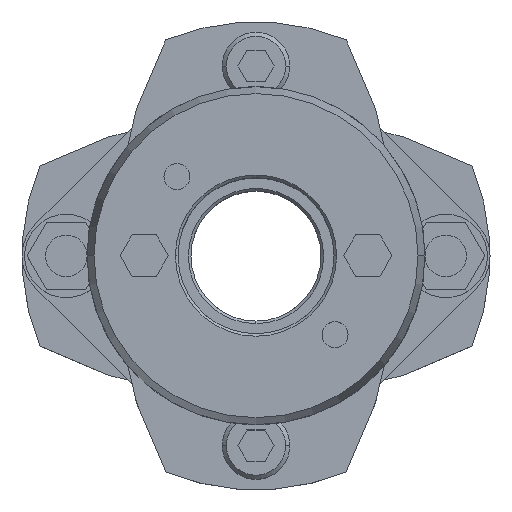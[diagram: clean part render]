
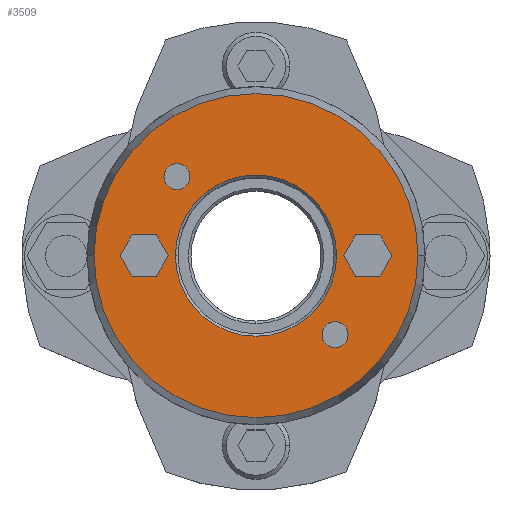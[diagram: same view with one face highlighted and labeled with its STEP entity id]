
A CAD part, top view. The second image highlights one B-rep face of the part: STEP entity #3509.
In plain terms, the highlighted planar face has unit normal (0, 0, 1).
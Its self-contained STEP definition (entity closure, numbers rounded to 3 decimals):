
#1471=CARTESIAN_POINT('',(-15.5,0.,39.25));
#1472=VERTEX_POINT('',#1471);
#1488=CARTESIAN_POINT('',(15.5,0.,39.25));
#1489=VERTEX_POINT('',#1488);
#1496=CARTESIAN_POINT('',(0.,0.,39.25));
#1497=DIRECTION('',(0.0,0.0,1.0));
#1498=DIRECTION('',(-1.0,0.0,0.0));
#1499=AXIS2_PLACEMENT_3D('',#1496,#1497,#1498);
#1500=CIRCLE('',#1499,15.5);
#1501=EDGE_CURVE('',#1489,#1472,#1500,.T.);
#1617=CARTESIAN_POINT('',(31.16,0.,39.25));
#1618=VERTEX_POINT('',#1617);
#1627=CARTESIAN_POINT('',(-31.16,0.,39.25));
#1628=VERTEX_POINT('',#1627);
#1629=CARTESIAN_POINT('',(0.,0.,39.25));
#1630=DIRECTION('',(0.0,0.0,-1.0));
#1631=DIRECTION('',(1.0,0.0,0.0));
#1632=AXIS2_PLACEMENT_3D('',#1629,#1630,#1631);
#1633=CIRCLE('',#1632,31.16);
#1634=EDGE_CURVE('',#1618,#1628,#1633,.T.);
#1951=CARTESIAN_POINT('',(-17.703,15.203,39.25));
#1952=VERTEX_POINT('',#1951);
#1968=CARTESIAN_POINT('',(-12.703,15.203,39.25));
#1969=VERTEX_POINT('',#1968);
#1976=CARTESIAN_POINT('',(-15.203,15.203,39.25));
#1977=DIRECTION('',(0.0,0.0,-1.0));
#1978=DIRECTION('',(-1.0,0.0,0.0));
#1979=AXIS2_PLACEMENT_3D('',#1976,#1977,#1978);
#1980=CIRCLE('',#1979,2.5);
#1981=EDGE_CURVE('',#1952,#1969,#1980,.T.);
#1993=CARTESIAN_POINT('',(12.703,-15.203,39.25));
#1994=VERTEX_POINT('',#1993);
#2010=CARTESIAN_POINT('',(17.703,-15.203,39.25));
#2011=VERTEX_POINT('',#2010);
#2018=CARTESIAN_POINT('',(15.203,-15.203,39.25));
#2019=DIRECTION('',(0.0,0.0,-1.0));
#2020=DIRECTION('',(-1.0,0.0,0.0));
#2021=AXIS2_PLACEMENT_3D('',#2018,#2019,#2020);
#2022=CIRCLE('',#2021,2.5);
#2023=EDGE_CURVE('',#1994,#2011,#2022,.T.);
#2115=CARTESIAN_POINT('',(16.881,0.,39.25));
#2116=VERTEX_POINT('',#2115);
#2123=CARTESIAN_POINT('',(19.191,-4.,39.25));
#2124=VERTEX_POINT('',#2123);
#2125=CARTESIAN_POINT('',(19.191,-4.,39.25));
#2126=DIRECTION('',(-0.5,0.866,0.0));
#2127=VECTOR('',#2126,4.619);
#2128=LINE('',#2125,#2127);
#2129=EDGE_CURVE('',#2124,#2116,#2128,.T.);
#2153=CARTESIAN_POINT('',(19.191,4.,39.25));
#2154=VERTEX_POINT('',#2153);
#2161=CARTESIAN_POINT('',(16.881,0.,39.25));
#2162=DIRECTION('',(0.5,0.866,0.0));
#2163=VECTOR('',#2162,4.619);
#2164=LINE('',#2161,#2163);
#2165=EDGE_CURVE('',#2116,#2154,#2164,.T.);
#2184=CARTESIAN_POINT('',(23.809,4.,39.25));
#2185=VERTEX_POINT('',#2184);
#2192=CARTESIAN_POINT('',(19.191,4.,39.25));
#2193=DIRECTION('',(1.0,0.0,0.0));
#2194=VECTOR('',#2193,4.619);
#2195=LINE('',#2192,#2194);
#2196=EDGE_CURVE('',#2154,#2185,#2195,.T.);
#2215=CARTESIAN_POINT('',(26.119,0.,39.25));
#2216=VERTEX_POINT('',#2215);
#2223=CARTESIAN_POINT('',(23.809,4.,39.25));
#2224=DIRECTION('',(0.5,-0.866,0.0));
#2225=VECTOR('',#2224,4.619);
#2226=LINE('',#2223,#2225);
#2227=EDGE_CURVE('',#2185,#2216,#2226,.T.);
#2246=CARTESIAN_POINT('',(23.809,-4.,39.25));
#2247=VERTEX_POINT('',#2246);
#2254=CARTESIAN_POINT('',(26.119,0.,39.25));
#2255=DIRECTION('',(-0.5,-0.866,0.0));
#2256=VECTOR('',#2255,4.619);
#2257=LINE('',#2254,#2256);
#2258=EDGE_CURVE('',#2216,#2247,#2257,.T.);
#2276=CARTESIAN_POINT('',(23.809,-4.,39.25));
#2277=DIRECTION('',(-1.0,0.0,0.0));
#2278=VECTOR('',#2277,4.619);
#2279=LINE('',#2276,#2278);
#2280=EDGE_CURVE('',#2247,#2124,#2279,.T.);
#2315=CARTESIAN_POINT('',(-26.119,0.,39.25));
#2316=VERTEX_POINT('',#2315);
#2323=CARTESIAN_POINT('',(-23.809,-4.,39.25));
#2324=VERTEX_POINT('',#2323);
#2325=CARTESIAN_POINT('',(-23.809,-4.,39.25));
#2326=DIRECTION('',(-0.5,0.866,0.0));
#2327=VECTOR('',#2326,4.619);
#2328=LINE('',#2325,#2327);
#2329=EDGE_CURVE('',#2324,#2316,#2328,.T.);
#2353=CARTESIAN_POINT('',(-23.809,4.,39.25));
#2354=VERTEX_POINT('',#2353);
#2361=CARTESIAN_POINT('',(-26.119,0.,39.25));
#2362=DIRECTION('',(0.5,0.866,0.0));
#2363=VECTOR('',#2362,4.619);
#2364=LINE('',#2361,#2363);
#2365=EDGE_CURVE('',#2316,#2354,#2364,.T.);
#2384=CARTESIAN_POINT('',(-19.191,4.,39.25));
#2385=VERTEX_POINT('',#2384);
#2392=CARTESIAN_POINT('',(-23.809,4.,39.25));
#2393=DIRECTION('',(1.0,0.0,0.0));
#2394=VECTOR('',#2393,4.619);
#2395=LINE('',#2392,#2394);
#2396=EDGE_CURVE('',#2354,#2385,#2395,.T.);
#2415=CARTESIAN_POINT('',(-16.881,0.,39.25));
#2416=VERTEX_POINT('',#2415);
#2423=CARTESIAN_POINT('',(-19.191,4.,39.25));
#2424=DIRECTION('',(0.5,-0.866,0.0));
#2425=VECTOR('',#2424,4.619);
#2426=LINE('',#2423,#2425);
#2427=EDGE_CURVE('',#2385,#2416,#2426,.T.);
#2446=CARTESIAN_POINT('',(-19.191,-4.,39.25));
#2447=VERTEX_POINT('',#2446);
#2454=CARTESIAN_POINT('',(-16.881,0.,39.25));
#2455=DIRECTION('',(-0.5,-0.866,0.0));
#2456=VECTOR('',#2455,4.619);
#2457=LINE('',#2454,#2456);
#2458=EDGE_CURVE('',#2416,#2447,#2457,.T.);
#2476=CARTESIAN_POINT('',(-19.191,-4.,39.25));
#2477=DIRECTION('',(-1.0,0.0,0.0));
#2478=VECTOR('',#2477,4.619);
#2479=LINE('',#2476,#2478);
#2480=EDGE_CURVE('',#2447,#2324,#2479,.T.);
#2506=CARTESIAN_POINT('',(15.203,-15.203,39.25));
#2507=DIRECTION('',(0.0,0.0,-1.0));
#2508=DIRECTION('',(-1.0,0.0,0.0));
#2509=AXIS2_PLACEMENT_3D('',#2506,#2507,#2508);
#2510=CIRCLE('',#2509,2.5);
#2511=EDGE_CURVE('',#2011,#1994,#2510,.T.);
#2540=CARTESIAN_POINT('',(-15.203,15.203,39.25));
#2541=DIRECTION('',(0.0,0.0,-1.0));
#2542=DIRECTION('',(-1.0,0.0,0.0));
#2543=AXIS2_PLACEMENT_3D('',#2540,#2541,#2542);
#2544=CIRCLE('',#2543,2.5);
#2545=EDGE_CURVE('',#1969,#1952,#2544,.T.);
#3456=CARTESIAN_POINT('',(0.,0.,39.25));
#3457=DIRECTION('',(0.0,0.0,-1.0));
#3458=DIRECTION('',(1.0,0.0,0.0));
#3459=AXIS2_PLACEMENT_3D('',#3456,#3457,#3458);
#3460=CIRCLE('',#3459,31.16);
#3461=EDGE_CURVE('',#1628,#1618,#3460,.T.);
#3466=CARTESIAN_POINT('',(-2.682,0.,39.25));
#3467=DIRECTION('',(0.0,0.0,1.0));
#3468=DIRECTION('',(-1.0,0.0,0.0));
#3469=AXIS2_PLACEMENT_3D('',#3466,#3467,#3468);
#3470=PLANE('',#3469);
#3471=ORIENTED_EDGE('',*,*,#3461,.F.);
#3472=ORIENTED_EDGE('',*,*,#1634,.F.);
#3473=EDGE_LOOP('',(#3471,#3472));
#3474=FACE_OUTER_BOUND('',#3473,.T.);
#3475=ORIENTED_EDGE('',*,*,#2129,.T.);
#3476=ORIENTED_EDGE('',*,*,#2165,.T.);
#3477=ORIENTED_EDGE('',*,*,#2196,.T.);
#3478=ORIENTED_EDGE('',*,*,#2227,.T.);
#3479=ORIENTED_EDGE('',*,*,#2258,.T.);
#3480=ORIENTED_EDGE('',*,*,#2280,.T.);
#3481=EDGE_LOOP('',(#3475,#3476,#3477,#3478,#3479,#3480));
#3482=FACE_BOUND('',#3481,.T.);
#3483=ORIENTED_EDGE('',*,*,#2329,.T.);
#3484=ORIENTED_EDGE('',*,*,#2365,.T.);
#3485=ORIENTED_EDGE('',*,*,#2396,.T.);
#3486=ORIENTED_EDGE('',*,*,#2427,.T.);
#3487=ORIENTED_EDGE('',*,*,#2458,.T.);
#3488=ORIENTED_EDGE('',*,*,#2480,.T.);
#3489=EDGE_LOOP('',(#3483,#3484,#3485,#3486,#3487,#3488));
#3490=FACE_BOUND('',#3489,.T.);
#3491=ORIENTED_EDGE('',*,*,#2023,.T.);
#3492=ORIENTED_EDGE('',*,*,#2511,.T.);
#3493=EDGE_LOOP('',(#3491,#3492));
#3494=FACE_BOUND('',#3493,.T.);
#3495=ORIENTED_EDGE('',*,*,#1981,.T.);
#3496=ORIENTED_EDGE('',*,*,#2545,.T.);
#3497=EDGE_LOOP('',(#3495,#3496));
#3498=FACE_BOUND('',#3497,.T.);
#3499=ORIENTED_EDGE('',*,*,#1501,.F.);
#3500=CARTESIAN_POINT('',(0.,0.,39.25));
#3501=DIRECTION('',(0.0,0.0,1.0));
#3502=DIRECTION('',(-1.0,0.0,0.0));
#3503=AXIS2_PLACEMENT_3D('',#3500,#3501,#3502);
#3504=CIRCLE('',#3503,15.5);
#3505=EDGE_CURVE('',#1472,#1489,#3504,.T.);
#3506=ORIENTED_EDGE('',*,*,#3505,.F.);
#3507=EDGE_LOOP('',(#3499,#3506));
#3508=FACE_BOUND('',#3507,.T.);
#3509=ADVANCED_FACE('',(#3474,#3482,#3490,#3494,#3498,#3508),#3470,.T.);
